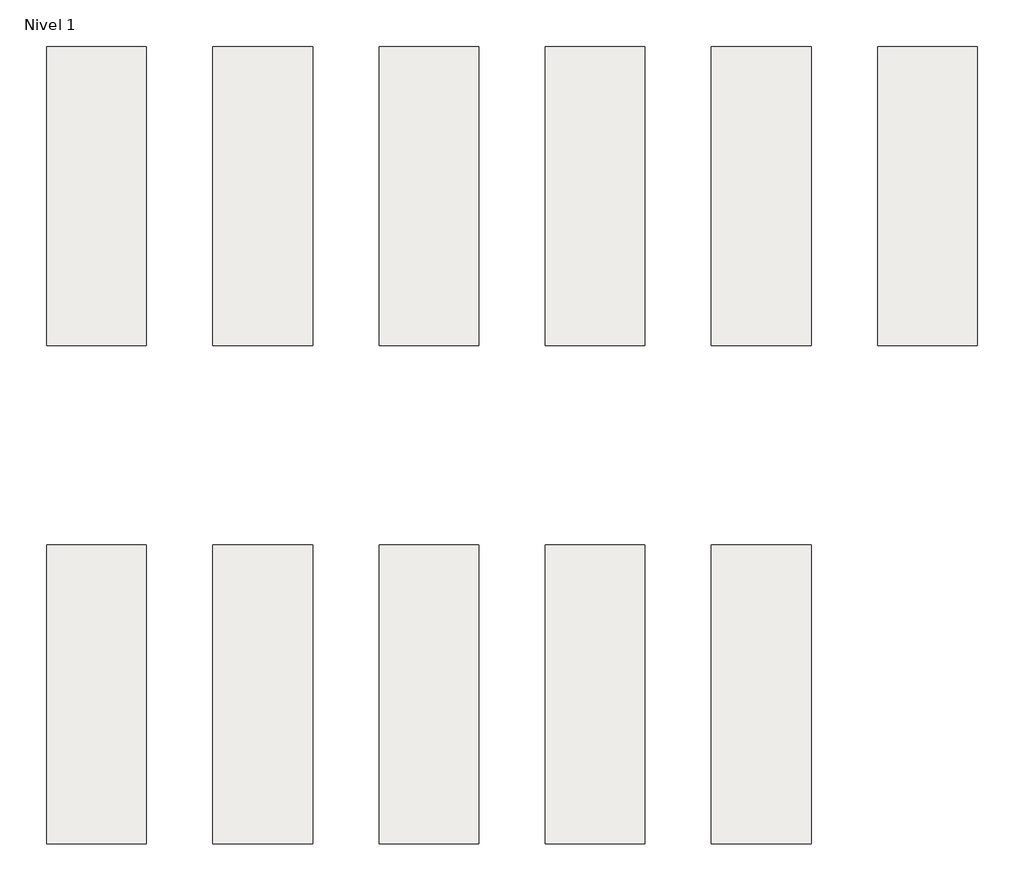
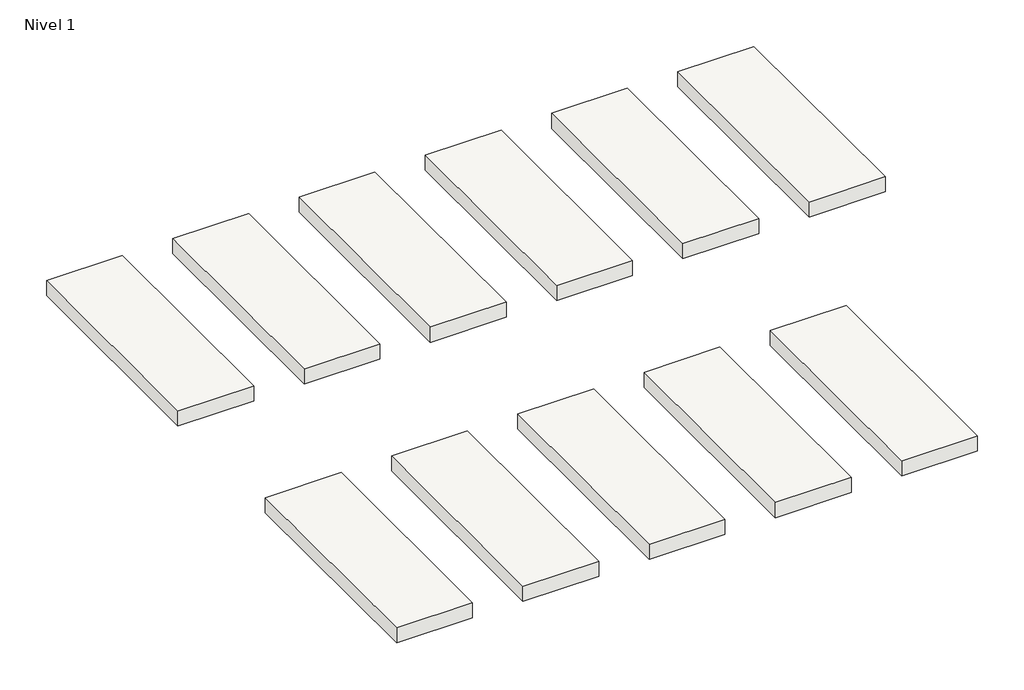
# One storey: 11 slabs.
"""IFC4 building model written with IfcOpenShell, lengths in millimetres."""

from ifc_helpers import new_model, si_unit, frame, origin, place, context, project, spatial, polyline, outline, extrude, element, save

model = new_model("IFC4")

# Units and contexts
model_context = context("Model", 3, world=origin())
ifc_project = project(units=[si_unit("LENGTHUNIT", "METRE", prefix="MILLI")], contexts=[model_context])

# Site, building, storey
site = spatial("IfcSite", under=ifc_project)
building = spatial("IfcBuilding", under=site)
storey = spatial("IfcBuildingStorey", under=building, Name="Nivel 1", Elevation=0.0)

# Slabs
placement = place(None, origin())
element("IfcSlab", 1, ObjectType="Khoi Azul 30X90", at=placement, inside=storey, context=model_context, shape_type="SweptSolid", body=[
    extrude(outline(polyline([(0.0, 900.0), (300.0, 900.0), (300.0, 0.0), (0.0, 0.0), (0.0, 900.0)])), frame((0.0, 0.0, -63.0), z_axis=(0.0, 0.0, 1.0), x_axis=(1.0, 0.0, 0.0)), (0.0, 0.0, 1.0), 63.0),
])
element("IfcSlab", 2, ObjectType="Khoi Blanco 30X90", at=placement, inside=storey, context=model_context, shape_type="SweptSolid", body=[
    extrude(outline(polyline([(500.0, 900.0), (800.0, 900.0), (800.0, 0.0), (500.0, 0.0), (500.0, 900.0)])), frame((0.0, 0.0, -63.0), z_axis=(0.0, 0.0, 1.0), x_axis=(1.0, 0.0, 0.0)), (0.0, 0.0, 1.0), 63.0),
])
element("IfcSlab", 3, ObjectType="Khoi Carbon 30X90", at=placement, inside=storey, context=model_context, shape_type="SweptSolid", body=[
    extrude(outline(polyline([(1000.0, 900.0), (1300.0, 900.0), (1300.0, 0.0), (1000.0, 0.0), (1000.0, 900.0)])), frame((0.0, 0.0, -63.0), z_axis=(0.0, 0.0, 1.0), x_axis=(1.0, 0.0, 0.0)), (0.0, 0.0, 1.0), 63.0),
])
element("IfcSlab", 4, ObjectType="Khoi Taupe 30X90", at=placement, inside=storey, context=model_context, shape_type="SweptSolid", body=[
    extrude(outline(polyline([(1500.0, 900.0), (1800.0, 900.0), (1800.0, 0.0), (1500.0, 0.0), (1500.0, 900.0)])), frame((0.0, 0.0, -63.0), z_axis=(0.0, 0.0, 1.0), x_axis=(1.0, 0.0, 0.0)), (0.0, 0.0, 1.0), 63.0),
])
element("IfcSlab", 5, ObjectType="Nubia Arena 30X90", at=placement, inside=storey, context=model_context, shape_type="SweptSolid", body=[
    extrude(outline(polyline([(2000.0, 900.0), (2300.0, 900.0), (2300.0, 0.0), (2000.0, 0.0), (2000.0, 900.0)])), frame((0.0, 0.0, -63.0), z_axis=(0.0, 0.0, 1.0), x_axis=(1.0, 0.0, 0.0)), (0.0, 0.0, 1.0), 63.0),
])
element("IfcSlab", 6, ObjectType="Nubia Blanco 30X90", at=placement, inside=storey, context=model_context, shape_type="SweptSolid", body=[
    extrude(outline(polyline([(2500.0, 900.0), (2800.0, 900.0), (2800.0, 0.0), (2500.0, 0.0), (2500.0, 900.0)])), frame((0.0, 0.0, -63.0), z_axis=(0.0, 0.0, 1.0), x_axis=(1.0, 0.0, 0.0)), (0.0, 0.0, 1.0), 63.0),
])
element("IfcSlab", 7, ObjectType="Nubia Gris 30X90", at=placement, inside=storey, context=model_context, shape_type="SweptSolid", body=[
    extrude(outline(polyline([(0.0, -600.0), (300.0, -600.0), (300.0, -1500.0), (0.0, -1500.0), (0.0, -600.0)])), frame((0.0, 0.0, -63.0), z_axis=(0.0, 0.0, 1.0), x_axis=(1.0, 0.0, 0.0)), (0.0, 0.0, 1.0), 63.0),
])
element("IfcSlab", 8, ObjectType="Nubia Vison 30X90", at=placement, inside=storey, context=model_context, shape_type="SweptSolid", body=[
    extrude(outline(polyline([(500.0, -600.0), (800.0, -600.0), (800.0, -1500.0), (500.0, -1500.0), (500.0, -600.0)])), frame((0.0, 0.0, -63.0), z_axis=(0.0, 0.0, 1.0), x_axis=(1.0, 0.0, 0.0)), (0.0, 0.0, 1.0), 63.0),
])
element("IfcSlab", 9, ObjectType="Zulu Azul 30X90", at=placement, inside=storey, context=model_context, shape_type="SweptSolid", body=[
    extrude(outline(polyline([(1000.0, -600.0), (1300.0, -600.0), (1300.0, -1500.0), (1000.0, -1500.0), (1000.0, -600.0)])), frame((0.0, 0.0, -63.0), z_axis=(0.0, 0.0, 1.0), x_axis=(1.0, 0.0, 0.0)), (0.0, 0.0, 1.0), 63.0),
])
element("IfcSlab", 10, ObjectType="Zulu Blanco 30X90", at=placement, inside=storey, context=model_context, shape_type="SweptSolid", body=[
    extrude(outline(polyline([(1500.0, -600.0), (1800.0, -600.0), (1800.0, -1500.0), (1500.0, -1500.0), (1500.0, -600.0)])), frame((0.0, 0.0, -63.0), z_axis=(0.0, 0.0, 1.0), x_axis=(1.0, 0.0, 0.0)), (0.0, 0.0, 1.0), 63.0),
])
element("IfcSlab", 11, ObjectType="Zulu Siena 30X90", at=placement, inside=storey, context=model_context, shape_type="SweptSolid", body=[
    extrude(outline(polyline([(2000.0, -600.0), (2300.0, -600.0), (2300.0, -1500.0), (2000.0, -1500.0), (2000.0, -600.0)])), frame((0.0, 0.0, -63.0), z_axis=(0.0, 0.0, 1.0), x_axis=(1.0, 0.0, 0.0)), (0.0, 0.0, 1.0), 63.0),
])

save(model, "model.ifc")
